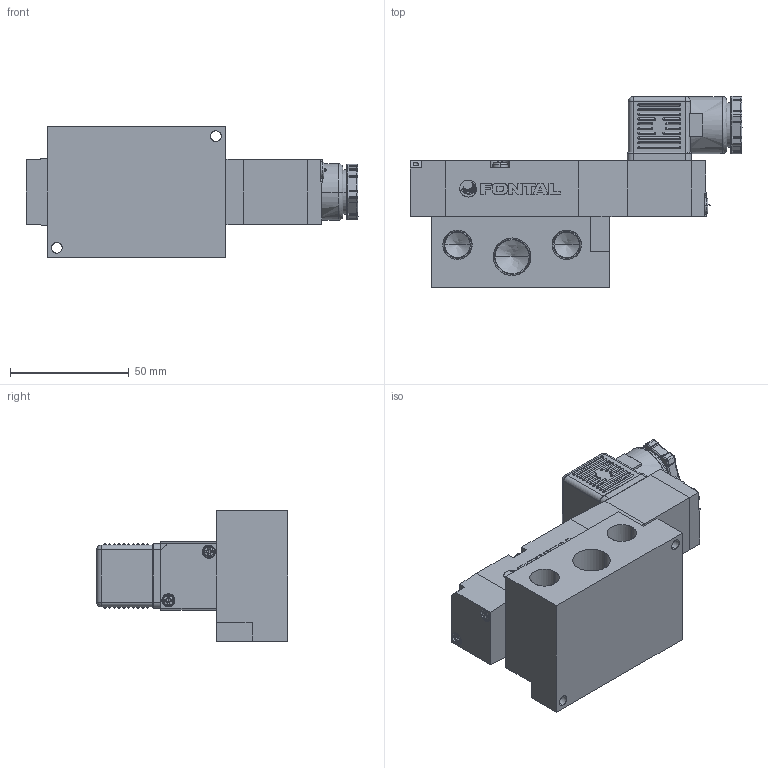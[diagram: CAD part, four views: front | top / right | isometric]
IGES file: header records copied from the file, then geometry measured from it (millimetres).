
Start section: SolidWorks IGES file using analytic representation for surfaces
Global section: file name: D:\Custom\3D繪製\PC\PC08\PCS2408#-03-#C#.IGS,1; native system: 5HSolidWorks 2014; preprocessor: SolidWorks 2014; author: Chieh_Lu; date: 150801.025759; units: millimetre
Bounding box: 139.85 x 80.64 x 55 mm (x, y, z)
Surface area: 49110.9 mm2 (no closed solid volume)
Topology: 0 solids, 0 shells, 870 faces, 7370 edges, 7212 vertices
Faces by surface type: revolution 464, bspline 406
